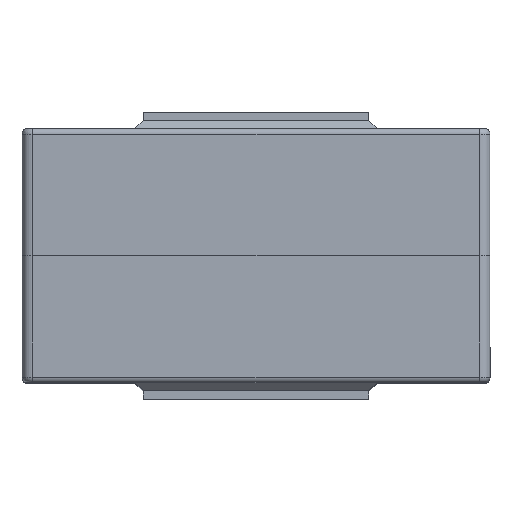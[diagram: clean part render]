
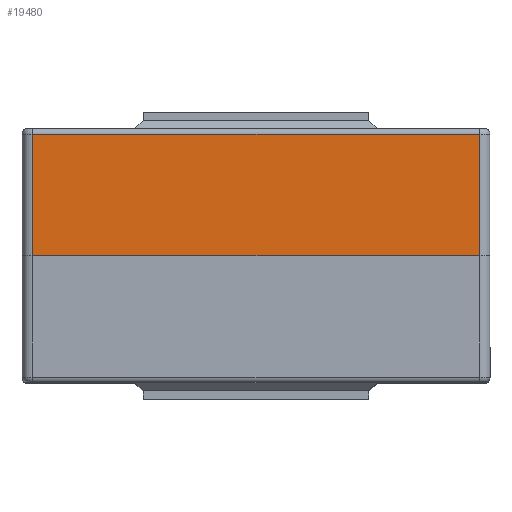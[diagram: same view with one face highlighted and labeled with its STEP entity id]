
A CAD part, top view. The second image highlights one B-rep face of the part: STEP entity #19480.
In plain terms, the highlighted planar face has unit normal (0, 0, 1) as drawn and (0, -1, 0) by its records, which use the part's own axes.
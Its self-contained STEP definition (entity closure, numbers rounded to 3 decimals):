
#1031 = PLANE ( 'NONE',  #21484 ) ;
#1032 = CARTESIAN_POINT ( 'NONE',  ( -43.5, -57.6, -40.15 ) ) ;
#1033 = DIRECTION ( 'NONE',  ( 0., 1., 0. ) ) ;
#1034 = DIRECTION ( 'NONE',  ( 0., 0., 1. ) ) ;
#1472 = CARTESIAN_POINT ( 'NONE',  ( 41.5, -57.6, -11. ) ) ;
#1474 = CARTESIAN_POINT ( 'NONE',  ( -41.5, -57.6, -11. ) ) ;
#3792 = VERTEX_POINT ( 'NONE', #5392 ) ;
#3795 = VERTEX_POINT ( 'NONE', #5395 ) ;
#3899 = VERTEX_POINT ( 'NONE', #1472 ) ;
#3901 = VERTEX_POINT ( 'NONE', #1474 ) ;
#5392 = CARTESIAN_POINT ( 'NONE',  ( 41.5, -57.6, 11.6 ) ) ;
#5395 = CARTESIAN_POINT ( 'NONE',  ( -41.5, -57.6, 11.6 ) ) ;
#5616 = EDGE_LOOP ( 'NONE', ( #12094, #12170, #12115, #12099 ) ) ;
#6621 = VECTOR ( 'NONE', #21314, 1000. ) ;
#6622 = VECTOR ( 'NONE', #21317, 1000. ) ;
#7241 = VECTOR ( 'NONE', #8420, 1000. ) ;
#8418 = LINE ( 'NONE', #8419, #7241 ) ;
#8419 = CARTESIAN_POINT ( 'NONE',  ( -43.5, -57.6, 11.6 ) ) ;
#8420 = DIRECTION ( 'NONE',  ( 1., 0., 0. ) ) ;
#12094 = ORIENTED_EDGE ( 'NONE', *, *, #22207, .F. ) ;
#12099 = ORIENTED_EDGE ( 'NONE', *, *, #22922, .F. ) ;
#12115 = ORIENTED_EDGE ( 'NONE', *, *, #22206, .F. ) ;
#12170 = ORIENTED_EDGE ( 'NONE', *, *, #21126, .T. ) ;
#16251 = LINE ( 'NONE', #16252, #22009 ) ;
#16252 = CARTESIAN_POINT ( 'NONE',  ( -32., -57.6, -11. ) ) ;
#16253 = DIRECTION ( 'NONE',  ( 1., 0., 0. ) ) ;
#19480 = ADVANCED_FACE ( 'NONE', ( #21480 ), #1031, .F. ) ;
#21126 = EDGE_CURVE ( 'NONE', #3901, #3899, #16251, .T. ) ;
#21312 = LINE ( 'NONE', #21313, #6621 ) ;
#21313 = CARTESIAN_POINT ( 'NONE',  ( 41.5, -57.6, -40.15 ) ) ;
#21314 = DIRECTION ( 'NONE',  ( 0., 0., -1. ) ) ;
#21315 = LINE ( 'NONE', #21316, #6622 ) ;
#21316 = CARTESIAN_POINT ( 'NONE',  ( -41.5, -57.6, -40.15 ) ) ;
#21317 = DIRECTION ( 'NONE',  ( 0., 0., 1. ) ) ;
#21480 = FACE_OUTER_BOUND ( 'NONE', #5616, .T. ) ;
#21484 = AXIS2_PLACEMENT_3D ( 'NONE', #1032, #1033, #1034 ) ;
#22009 = VECTOR ( 'NONE', #16253, 1000. ) ;
#22206 = EDGE_CURVE ( 'NONE', #3792, #3899, #21312, .T. ) ;
#22207 = EDGE_CURVE ( 'NONE', #3901, #3795, #21315, .T. ) ;
#22922 = EDGE_CURVE ( 'NONE', #3795, #3792, #8418, .T. ) ;
